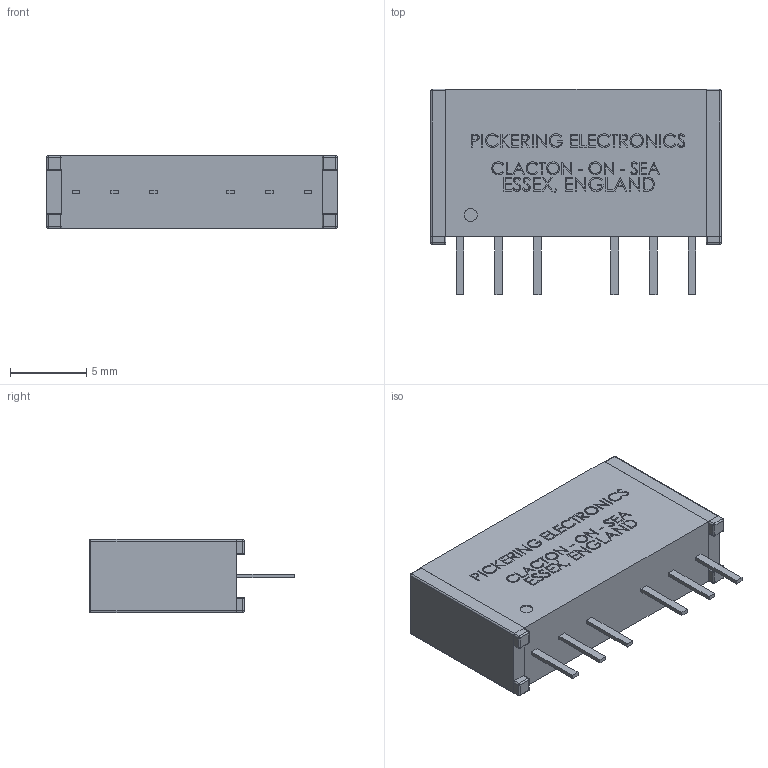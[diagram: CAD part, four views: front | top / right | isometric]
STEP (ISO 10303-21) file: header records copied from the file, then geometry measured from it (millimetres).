
FILE_DESCRIPTION (( 'STEP AP203' ), '1' );
FILE_NAME ('102M-1-B.STEP', '2010-06-29T13:12:24', ( ' ' ), ( '' ), 'SwSTEP 2.0', 'SolidWorks 2009', '' );
FILE_SCHEMA (( 'CONFIG_CONTROL_DESIGN' ));
Products named in the file (1): 102M-1-B
Bounding box: 19.1 x 13.5 x 4.8 mm (x, y, z)
Volume: 892 mm3; surface area: 909.6 mm2
Topology: 7 solids, 7 shells, 1095 faces, 2870 edges, 1880 vertices
Faces by surface type: plane 755, bspline 276, cylinder 44, sphere 20
Entity records: 48469 total; most frequent: CARTESIAN_POINT 23350, ORIENTED_EDGE 5700, DIRECTION 4026, EDGE_CURVE 2850, LINE 2210, VECTOR 2210, VERTEX_POINT 1880, EDGE_LOOP 1206
